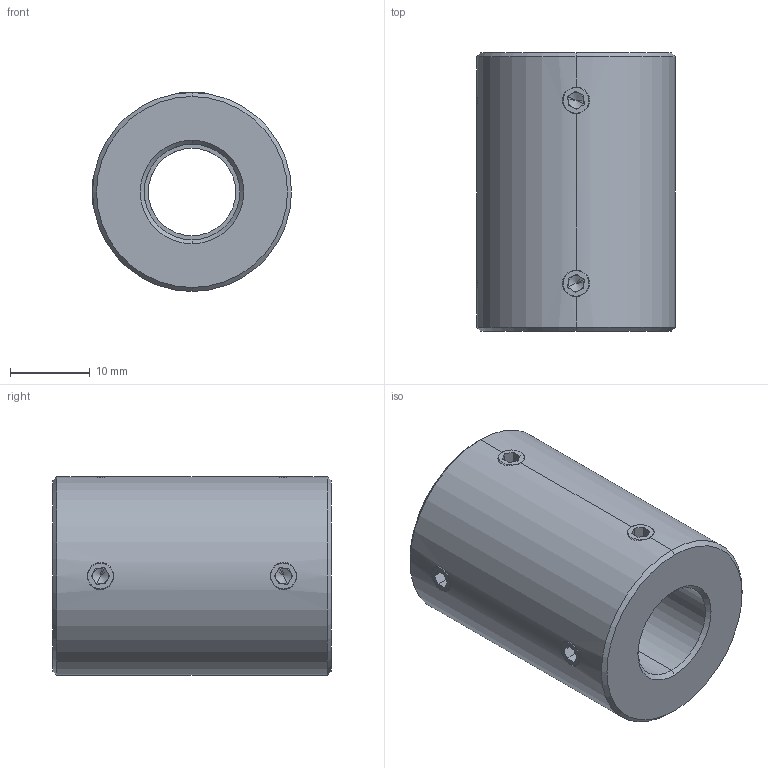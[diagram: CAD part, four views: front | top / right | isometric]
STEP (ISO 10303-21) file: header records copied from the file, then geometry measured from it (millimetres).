
FILE_DESCRIPTION (( 'STEP AP214' ), '1' );
FILE_NAME ('LL-D-D25L35-11-12½¨Ä£.STEP', '2022-07-23T00:45:00', ( '' ), ( '' ), 'SwSTEP 2.0', 'SolidWorks 2022', '' );
FILE_SCHEMA (( 'AUTOMOTIVE_DESIGN' ));
Length unit declared in the file: millimetre
Products named in the file (1): LL-D-D25L35-11-12膘耀
Bounding box: 25 x 35 x 25 mm (x, y, z)
Volume: 13388.2 mm3; surface area: 4924 mm2
Topology: 1 solids, 1 shells, 113 faces, 286 edges, 176 vertices
Faces by surface type: plane 59, cone 32, cylinder 22
Entity records: 3722 total; most frequent: CARTESIAN_POINT 1012, DIRECTION 558, ORIENTED_EDGE 556, EDGE_CURVE 278, AXIS2_PLACEMENT_3D 206, VERTEX_POINT 176, VECTOR 146, LINE 146
